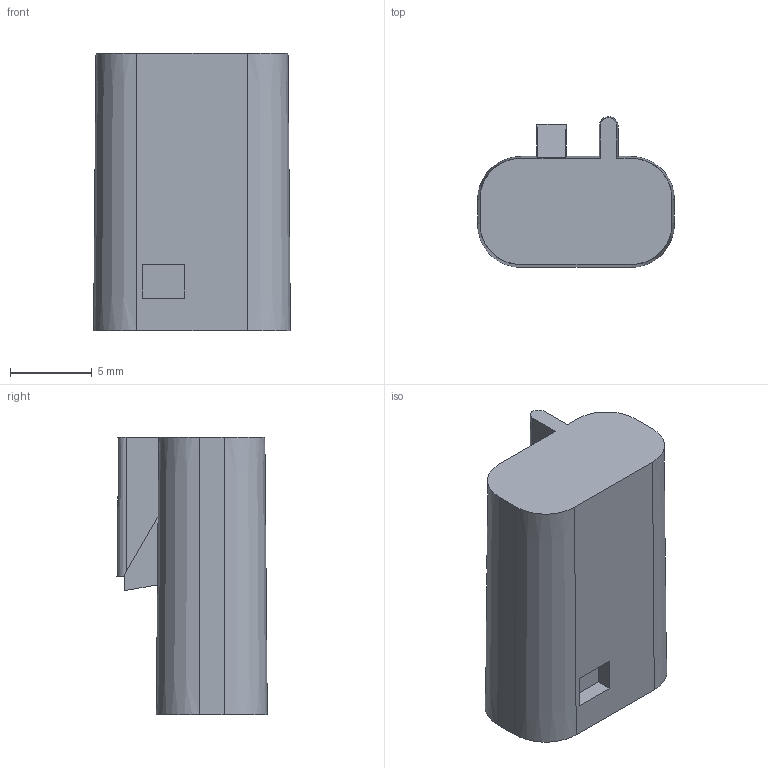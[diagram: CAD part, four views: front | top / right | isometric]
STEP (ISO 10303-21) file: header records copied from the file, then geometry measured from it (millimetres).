
FILE_DESCRIPTION(/* description */ (''),/* implementation_level */ '2;1');
FILE_NAME(/* name */ '12047781-ENV1105.stp',/* time_stamp */ '2019-07-24T16:04:52+06:00',/* author */ (''),/* organization */ (''),/* preprocessor_version */ 'ST-DEVELOPER v16',/* originating_system */ 'SIEMENS PLM Software NX 11.0',/* authorisation */ '');
FILE_SCHEMA (('AUTOMOTIVE_DESIGN { 1 0 10303 214 3 1 1 1 }'));
Length unit declared in the file: millimetre
Products named in the file (1): 12047781-ENV11_05-CONN
Bounding box: 12.06 x 9.22 x 17 mm (x, y, z)
Volume: 1275.1 mm3; surface area: 771.7 mm2
Topology: 1 solids, 1 shells, 24 faces, 60 edges, 40 vertices
Faces by surface type: plane 19, cone 5
Entity records: 738 total; most frequent: CARTESIAN_POINT 125, ORIENTED_EDGE 120, DIRECTION 120, EDGE_CURVE 60, LINE 50, VECTOR 50, VERTEX_POINT 40, AXIS2_PLACEMENT_3D 35
